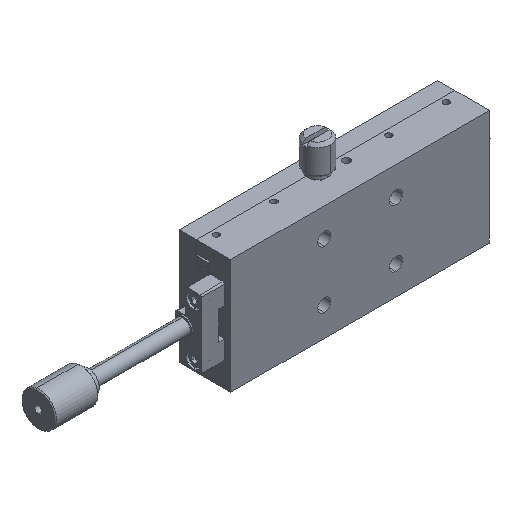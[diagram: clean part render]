
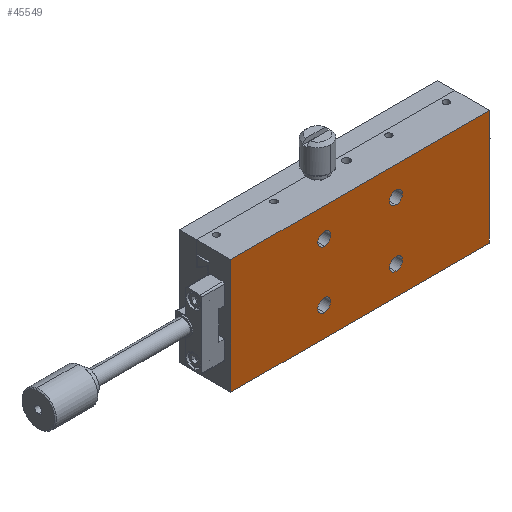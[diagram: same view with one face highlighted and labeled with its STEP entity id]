
A CAD part, isometric view. The second image highlights one B-rep face of the part: STEP entity #45549.
In plain terms, the highlighted planar face has unit normal (0, -1, 0).
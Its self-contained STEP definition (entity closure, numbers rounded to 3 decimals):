
#10 = DIRECTION ( 'NONE',  ( 0., 0., 1. ) ) ;
#383 = ORIENTED_EDGE ( 'NONE', *, *, #52590, .F. ) ;
#620 = AXIS2_PLACEMENT_3D ( 'NONE', #8479, #32027, #9238 ) ;
#711 = CARTESIAN_POINT ( 'NONE',  ( 45., 0., 20. ) ) ;
#775 = DIRECTION ( 'NONE',  ( 0., 1., 0. ) ) ;
#2294 = FACE_BOUND ( 'NONE', #70412, .T. ) ;
#2475 = CARTESIAN_POINT ( 'NONE',  ( -45., 0., 20. ) ) ;
#4183 = LINE ( 'NONE', #58571, #29649 ) ;
#5445 = CARTESIAN_POINT ( 'NONE',  ( -12.5, 0., 12.25 ) ) ;
#5718 = VERTEX_POINT ( 'NONE', #38145 ) ;
#8479 = CARTESIAN_POINT ( 'NONE',  ( 12.5, 0., -10. ) ) ;
#8491 = FACE_OUTER_BOUND ( 'NONE', #15056, .T. ) ;
#8609 = ORIENTED_EDGE ( 'NONE', *, *, #19933, .F. ) ;
#8882 = DIRECTION ( 'NONE',  ( 0., 0., 1. ) ) ;
#9238 = DIRECTION ( 'NONE',  ( 0., 0., 1. ) ) ;
#9272 = VERTEX_POINT ( 'NONE', #25635 ) ;
#10388 = DIRECTION ( 'NONE',  ( 0., 1., 0. ) ) ;
#11252 = ORIENTED_EDGE ( 'NONE', *, *, #67286, .T. ) ;
#11432 = AXIS2_PLACEMENT_3D ( 'NONE', #48104, #70923, #66284 ) ;
#11591 = CARTESIAN_POINT ( 'NONE',  ( -12.5, 0., 10. ) ) ;
#12284 = CIRCLE ( 'NONE', #22140, 2.25 ) ;
#12844 = VERTEX_POINT ( 'NONE', #13275 ) ;
#13275 = CARTESIAN_POINT ( 'NONE',  ( 12.5, 0., -7.75 ) ) ;
#15006 = CARTESIAN_POINT ( 'NONE',  ( 45., 0., 20. ) ) ;
#15056 = EDGE_LOOP ( 'NONE', ( #32248, #29114, #8609, #383 ) ) ;
#16057 = VECTOR ( 'NONE', #16668, 1000. ) ;
#16187 = VERTEX_POINT ( 'NONE', #59258 ) ;
#16668 = DIRECTION ( 'NONE',  ( -1., 0., 0. ) ) ;
#18373 = EDGE_LOOP ( 'NONE', ( #65583, #28963 ) ) ;
#19933 = EDGE_CURVE ( 'NONE', #76485, #5718, #69275, .T. ) ;
#20353 = VERTEX_POINT ( 'NONE', #15006 ) ;
#20440 = EDGE_CURVE ( 'NONE', #20353, #49104, #4183, .T. ) ;
#21159 = DIRECTION ( 'NONE',  ( 0., 0., 1. ) ) ;
#22140 = AXIS2_PLACEMENT_3D ( 'NONE', #67947, #61017, #37389 ) ;
#22337 = VECTOR ( 'NONE', #41675, 1000. ) ;
#24354 = VERTEX_POINT ( 'NONE', #72333 ) ;
#25635 = CARTESIAN_POINT ( 'NONE',  ( -12.5, 0., -12.25 ) ) ;
#25857 = DIRECTION ( 'NONE',  ( 0., 1., 0. ) ) ;
#26102 = EDGE_CURVE ( 'NONE', #9272, #46787, #72677, .T. ) ;
#26251 = PLANE ( 'NONE',  #64129 ) ;
#26325 = ORIENTED_EDGE ( 'NONE', *, *, #64879, .T. ) ;
#26529 = EDGE_LOOP ( 'NONE', ( #26325, #29486 ) ) ;
#26619 = CARTESIAN_POINT ( 'NONE',  ( 30., 0., 20. ) ) ;
#27384 = CARTESIAN_POINT ( 'NONE',  ( -12.5, 0., -10. ) ) ;
#28963 = ORIENTED_EDGE ( 'NONE', *, *, #26102, .T. ) ;
#29114 = ORIENTED_EDGE ( 'NONE', *, *, #76038, .F. ) ;
#29436 = AXIS2_PLACEMENT_3D ( 'NONE', #65338, #775, #10 ) ;
#29486 = ORIENTED_EDGE ( 'NONE', *, *, #55542, .T. ) ;
#29649 = VECTOR ( 'NONE', #47332, 1000. ) ;
#30395 = CIRCLE ( 'NONE', #57632, 2.25 ) ;
#30937 = DIRECTION ( 'NONE',  ( 0., 0., 1. ) ) ;
#31856 = CIRCLE ( 'NONE', #36798, 2.25 ) ;
#32027 = DIRECTION ( 'NONE',  ( 0., 1., 0. ) ) ;
#32248 = ORIENTED_EDGE ( 'NONE', *, *, #20440, .T. ) ;
#32329 = CIRCLE ( 'NONE', #40985, 2.25 ) ;
#33064 = VERTEX_POINT ( 'NONE', #68894 ) ;
#33145 = AXIS2_PLACEMENT_3D ( 'NONE', #45165, #25857, #8882 ) ;
#34723 = LINE ( 'NONE', #711, #22337 ) ;
#36288 = EDGE_CURVE ( 'NONE', #16187, #12844, #61169, .T. ) ;
#36702 = CARTESIAN_POINT ( 'NONE',  ( -45., 0., -20. ) ) ;
#36798 = AXIS2_PLACEMENT_3D ( 'NONE', #27384, #10388, #39725 ) ;
#37389 = DIRECTION ( 'NONE',  ( 0., 0., 1. ) ) ;
#38145 = CARTESIAN_POINT ( 'NONE',  ( -45., 0., -20. ) ) ;
#38900 = CARTESIAN_POINT ( 'NONE',  ( 45., 0., -20. ) ) ;
#39166 = ORIENTED_EDGE ( 'NONE', *, *, #39361, .T. ) ;
#39361 = EDGE_CURVE ( 'NONE', #46727, #24354, #30395, .T. ) ;
#39725 = DIRECTION ( 'NONE',  ( 0., 0., 1. ) ) ;
#40985 = AXIS2_PLACEMENT_3D ( 'NONE', #74138, #50559, #21159 ) ;
#41044 = CIRCLE ( 'NONE', #11432, 2.25 ) ;
#41675 = DIRECTION ( 'NONE',  ( 0., 0., -1. ) ) ;
#43672 = FACE_BOUND ( 'NONE', #18373, .T. ) ;
#45165 = CARTESIAN_POINT ( 'NONE',  ( -12.5, 0., -10. ) ) ;
#45549 = ADVANCED_FACE ( 'NONE', ( #2294, #61069, #73041, #43672, #8491 ), #26251, .F. ) ;
#46727 = VERTEX_POINT ( 'NONE', #5445 ) ;
#46787 = VERTEX_POINT ( 'NONE', #69233 ) ;
#47332 = DIRECTION ( 'NONE',  ( -1., 0., 0. ) ) ;
#48104 = CARTESIAN_POINT ( 'NONE',  ( 12.5, 0., 10. ) ) ;
#49104 = VERTEX_POINT ( 'NONE', #2475 ) ;
#49188 = CIRCLE ( 'NONE', #29436, 2.25 ) ;
#50205 = DIRECTION ( 'NONE',  ( 0., 0., 1. ) ) ;
#50559 = DIRECTION ( 'NONE',  ( 0., 1., 0. ) ) ;
#50757 = ORIENTED_EDGE ( 'NONE', *, *, #53954, .T. ) ;
#51807 = DIRECTION ( 'NONE',  ( 0., 0., 1. ) ) ;
#52590 = EDGE_CURVE ( 'NONE', #20353, #76485, #34723, .T. ) ;
#53954 = EDGE_CURVE ( 'NONE', #12844, #16187, #32329, .T. ) ;
#53955 = EDGE_LOOP ( 'NONE', ( #50757, #69156 ) ) ;
#55542 = EDGE_CURVE ( 'NONE', #33064, #74758, #41044, .T. ) ;
#57632 = AXIS2_PLACEMENT_3D ( 'NONE', #11591, #63775, #51807 ) ;
#58571 = CARTESIAN_POINT ( 'NONE',  ( 30., 0., 20. ) ) ;
#58798 = CARTESIAN_POINT ( 'NONE',  ( 12.5, 0., 12.25 ) ) ;
#59258 = CARTESIAN_POINT ( 'NONE',  ( 12.5, 0., -12.25 ) ) ;
#61017 = DIRECTION ( 'NONE',  ( 0., 1., 0. ) ) ;
#61069 = FACE_BOUND ( 'NONE', #26529, .T. ) ;
#61102 = LINE ( 'NONE', #36702, #66926 ) ;
#61169 = CIRCLE ( 'NONE', #620, 2.25 ) ;
#63522 = EDGE_CURVE ( 'NONE', #46787, #9272, #31856, .T. ) ;
#63775 = DIRECTION ( 'NONE',  ( 0., 1., 0. ) ) ;
#64129 = AXIS2_PLACEMENT_3D ( 'NONE', #26619, #73780, #50205 ) ;
#64879 = EDGE_CURVE ( 'NONE', #74758, #33064, #49188, .T. ) ;
#65338 = CARTESIAN_POINT ( 'NONE',  ( 12.5, 0., 10. ) ) ;
#65583 = ORIENTED_EDGE ( 'NONE', *, *, #63522, .T. ) ;
#66284 = DIRECTION ( 'NONE',  ( 0., 0., 1. ) ) ;
#66926 = VECTOR ( 'NONE', #30937, 1000. ) ;
#67286 = EDGE_CURVE ( 'NONE', #24354, #46727, #12284, .T. ) ;
#67947 = CARTESIAN_POINT ( 'NONE',  ( -12.5, 0., 10. ) ) ;
#68894 = CARTESIAN_POINT ( 'NONE',  ( 12.5, 0., 7.75 ) ) ;
#69156 = ORIENTED_EDGE ( 'NONE', *, *, #36288, .T. ) ;
#69233 = CARTESIAN_POINT ( 'NONE',  ( -12.5, 0., -7.75 ) ) ;
#69275 = LINE ( 'NONE', #75461, #16057 ) ;
#70412 = EDGE_LOOP ( 'NONE', ( #39166, #11252 ) ) ;
#70923 = DIRECTION ( 'NONE',  ( 0., 1., 0. ) ) ;
#72333 = CARTESIAN_POINT ( 'NONE',  ( -12.5, 0., 7.75 ) ) ;
#72677 = CIRCLE ( 'NONE', #33145, 2.25 ) ;
#73041 = FACE_BOUND ( 'NONE', #53955, .T. ) ;
#73780 = DIRECTION ( 'NONE',  ( 0., 1., 0. ) ) ;
#74138 = CARTESIAN_POINT ( 'NONE',  ( 12.5, 0., -10. ) ) ;
#74758 = VERTEX_POINT ( 'NONE', #58798 ) ;
#75461 = CARTESIAN_POINT ( 'NONE',  ( 30., 0., -20. ) ) ;
#76038 = EDGE_CURVE ( 'NONE', #5718, #49104, #61102, .T. ) ;
#76485 = VERTEX_POINT ( 'NONE', #38900 ) ;
